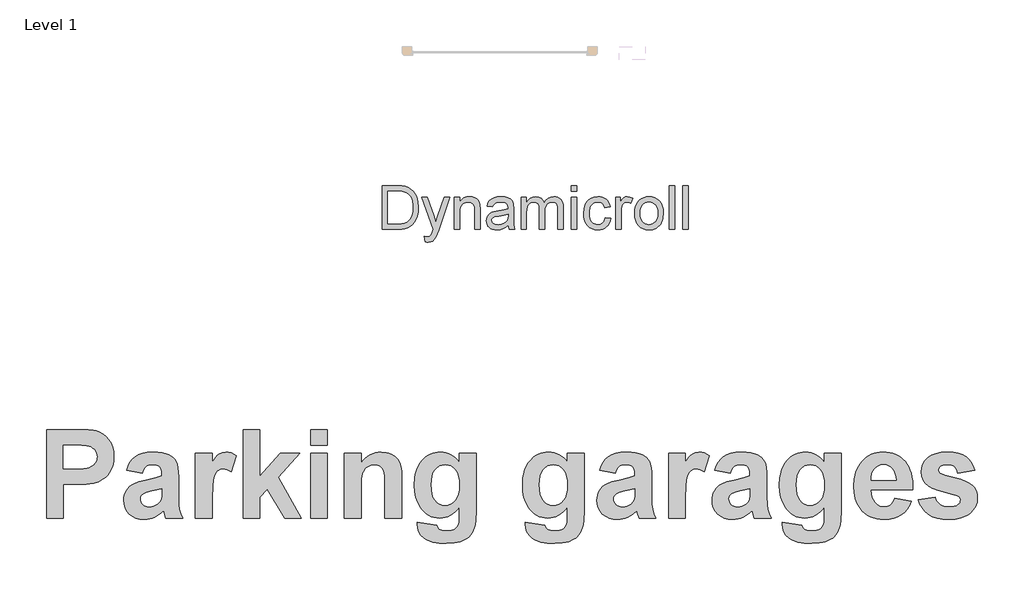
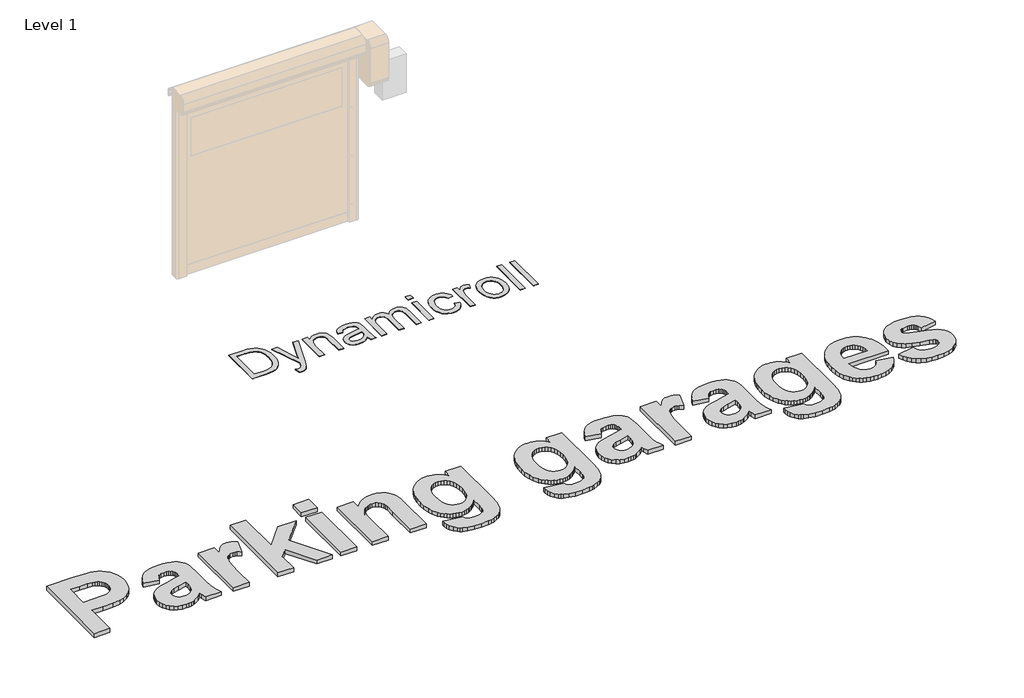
# One storey, part 18 of 20: 2 proxies.
"""IFC4 building model written with IfcOpenShell, lengths in millimetres."""

from ifc_helpers import new_model, si_unit, origin, origin_with_axes, place, context, project, spatial, polyline, outline, extrude, element, save

model = new_model("IFC4")

# Units and contexts
model_context = context("Model", 3, world=origin())
ifc_project = project(units=[si_unit("LENGTHUNIT", "METRE", prefix="MILLI")], contexts=[model_context])

# Site, building, storey
site = spatial("IfcSite", under=ifc_project)
building = spatial("IfcBuilding", under=site)
storey = spatial("IfcBuildingStorey", under=building, Name="Level 1", Elevation=0.0)

# Proxies
placement = place(None, origin())
element("IfcBuildingElementProxy", 1, Name="1000", ObjectType="1000", at=placement, inside=storey, context=model_context, shape_type="SweptSolid", body=[
    extrude(outline(polyline([(-782.7548717, 74991.5736553), (-782.7548717, 76011.8330553), (-454.0552287, 76011.8330553), (-299.6372478, 76008.0374474), (-246.8624832, 76003.2929375), (-210.3772023, 75996.6506237), (-168.5069028, 75981.9031056), (-130.1949857, 75960.4341985), (-95.441451, 75932.2439024), (-64.2462987, 75897.3322174), (-38.5073327, 75856.2842996), (-20.122357, 75809.6853052), (-9.0913716, 75757.5352344), (-5.4143765, 75699.834087), (-7.5731284, 75655.0063763), (-14.0493844, 75613.8951984), (-24.8431443, 75576.5005532), (-39.9544082, 75542.8224407), (-58.3947365, 75512.7106182), (-79.1756897, 75486.0148427), (-102.2972678, 75462.7351143), (-127.7594707, 75442.871433), (-181.4356922, 75412.6647203), (-235.9342954, 75394.6672129), (-327.3451854, 75383.8497304), (-452.283945, 75380.2439029), (-588.4197479, 75380.2439029), (-588.4197479, 74991.5736553), (-782.7548717, 74991.5736553)]), holes=[polyline([(-588.4197479, 75833.6925251), (-588.4197479, 75558.3844331), (-467.7194171, 75558.3844331), (-359.0068812, 75562.180041), (-320.8531144, 75566.9245508), (-293.5010151, 75573.5668646), (-254.3429937, 75593.0826152), (-238.3223654, 75606.0904797), (-224.673992, 75621.2650037), (-213.7695269, 75638.1791814), (-205.9806232, 75656.4060067), (-201.307281, 75675.9454798), (-199.7495003, 75696.7976007), (-201.9398823, 75722.0858382), (-208.5110285, 75745.065081), (-219.4629387, 75765.7353289), (-234.7956131, 75784.0965821), (-253.4652594, 75799.6902045), (-274.4280854, 75812.0575602), (-297.6840913, 75821.1986492), (-323.2332768, 75827.1134714), (-382.6345403, 75832.0477617), (-481.8896865, 75833.6925251), (-588.4197479, 75833.6925251)])]), origin_with_axes(), (0.0, 0.0, 1.0), 50.0),
    extrude(outline(polyline([(318.4774965, 75509.8006521), (140.3369664, 75542.1898394), (157.0771787, 75592.3551237), (178.9572766, 75635.5617934), (205.9772603, 75671.8098487), (238.1371296, 75701.0992896), (277.065833, 75723.6831565), (324.3923188, 75739.8144901), (380.1165871, 75749.4932902), (444.2386379, 75752.7195569), (502.3905137, 75750.7664003), (552.603243, 75744.9069306), (594.8768259, 75735.1411478), (629.2112622, 75721.4690519), (657.3303906, 75704.8000073), (680.9580497, 75686.0433783), (700.0942395, 75665.199165), (714.7389599, 75642.2673674), (725.5880725, 75613.2705046), (733.3374386, 75574.231096), (737.9870582, 75525.1491415), (739.5369315, 75466.0246412), (739.5369315, 75236.2638437), (742.0989668, 75150.9891866), (749.7850727, 75091.524663), (764.4930533, 75043.2571827), (788.1207124, 74991.5736553), (593.7855886, 74991.5736553), (575.5666707, 75053.3155436), (568.7345765, 75077.8604746), (518.442772, 75033.1039316), (464.7349205, 75001.062675), (436.5683469, 74989.8260942), (407.4845015, 74981.799965), (377.4833842, 74976.9842875), (346.5649949, 74975.3790617), (294.0828084, 74979.2774673), (247.467999, 74990.9726841), (206.7205668, 75010.4647121), (171.8405119, 75037.7535513), (143.8874413, 75070.9888428), (123.9209623, 75108.3202279), (111.9410749, 75149.7477065), (107.9477791, 75195.2712786), (109.7269703, 75225.9208123), (115.0645439, 75254.8623224), (123.9604999, 75282.095809), (136.4148382, 75307.621272), (152.0796283, 75330.8535553), (170.6069393, 75351.2075026), (191.9967712, 75368.6831139), (216.2491241, 75383.2803892), (278.9399144, 75407.8885804), (364.2778317, 75429.0807244), (474.7932814, 75454.0684763), (545.2018076, 75477.4114648), (545.2018076, 75497.9077474), (543.691472, 75525.2677543), (539.1604651, 75548.3893323), (531.6087869, 75567.2724815), (521.0364374, 75581.917202), (506.2889193, 75592.8770197), (486.2117351, 75600.705461), (460.8048848, 75605.4025258), (430.0683684, 75606.968214), (389.7716647, 75601.5911028), (373.3714756, 75594.8697139), (359.4700617, 75585.4597693), (347.4190067, 75572.6654077), (336.5698941, 75555.7907677), (318.4774965, 75509.8006521)]), holes=[polyline([(545.2018076, 75331.660122), (435.63526, 75304.711306), (373.6403312, 75289.2442038), (337.455536, 75273.9668821), (322.067509, 75260.9827401), (311.0760612, 75246.3222046), (304.4811925, 75229.9852757), (302.2829029, 75211.9719533), (304.0462791, 75194.1246887), (309.3364076, 75177.5268117), (318.1532884, 75162.1783223), (330.4969215, 75148.0792205), (345.5607403, 75136.2891135), (362.5381781, 75127.8676085), (381.4292349, 75122.8147055), (402.2339106, 75121.1304045), (426.3518357, 75123.0914686), (449.8687896, 75128.9746608), (472.7847722, 75138.7799812), (495.0997835, 75152.5074297), (522.3016401, 75178.9501647), (538.1166729, 75210.7067506), (543.430524, 75243.4122386), (545.2018076, 75296.4874889), (545.2018076, 75331.660122)])]), origin_with_axes(), (0.0, 0.0, 1.0), 50.0),
    extrude(outline(polyline([(1128.2071791, 74991.5736553), (933.8720553, 74991.5736553), (933.8720553, 75736.5249632), (1128.2071791, 75736.5249632), (1128.2071791, 75632.7783476), (1169.2630044, 75693.7927444), (1188.1303386, 75714.8346456), (1205.8906205, 75729.5663488), (1242.708017, 75746.9312548), (1284.3331835, 75752.7195569), (1314.935272, 75750.1575215), (1344.9996495, 75742.4714156), (1374.5263159, 75729.661239), (1403.5152711, 75711.7269917), (1346.8341933, 75526.7543673), (1300.0216961, 75550.4769166), (1277.9439102, 75556.407554), (1256.7517662, 75558.3844331), (1219.3966585, 75552.8491716), (1203.0676371, 75545.9300947), (1188.3043039, 75536.2433871), (1175.0671214, 75522.9508519), (1163.316552, 75505.2142926), (1144.2752524, 75456.4091012), (1137.2454703, 75419.6549648), (1132.2241974, 75367.0857956), (1128.2071791, 75214.5023585), (1128.2071791, 74991.5736553)])), origin_with_axes(), (0.0, 0.0, 1.0), 50.0),
    extrude(outline(polyline([(1484.4882394, 74991.5736553), (1484.4882394, 76011.8330553), (1678.8233632, 76011.8330553), (1678.8233632, 75474.121938), (1913.6449711, 75736.5249632), (2140.3692822, 75736.5249632), (1890.6182832, 75462.7351143), (2156.5638758, 74991.5736553), (1962.228752, 74991.5736553), (1765.6162635, 75325.3341088), (1678.8233632, 75230.1908711), (1678.8233632, 74991.5736553), (1484.4882394, 74991.5736553)])), origin_with_axes(), (0.0, 0.0, 1.0), 50.0),
    extrude(outline(polyline([(2261.8287346, 75833.6925251), (2261.8287346, 76011.8330553), (2456.1638584, 76011.8330553), (2456.1638584, 75833.6925251), (2261.8287346, 75833.6925251)])), origin_with_axes(), (0.0, 0.0, 1.0), 50.0),
    extrude(outline(polyline([(2261.8287346, 74991.5736553), (2261.8287346, 75736.5249632), (2456.1638584, 75736.5249632), (2456.1638584, 74991.5736553), (2261.8287346, 74991.5736553)])), origin_with_axes(), (0.0, 0.0, 1.0), 50.0),
    extrude(outline(polyline([(3314.4773218, 74991.5736553), (3120.142198, 74991.5736553), (3120.142198, 75374.4239708), (3117.1057117, 75474.628019), (3113.3101038, 75508.5987096), (3107.9962528, 75531.8151779), (3091.9914395, 75563.5085037), (3068.2688902, 75587.231053), (3037.9672873, 75602.0339238), (3002.225313, 75606.968214), (2978.0678503, 75605.2048379), (2955.1914053, 75599.9147094), (2933.5959779, 75591.0978285), (2913.2815682, 75578.7541954), (2895.1575405, 75563.4926887), (2880.1332593, 75545.9221872), (2868.2087245, 75526.0426909), (2859.3839362, 75503.8541998), (2853.0183855, 75475.5690135), (2848.4715635, 75437.3994317), (2844.834106, 75331.4070814), (2844.834106, 74991.5736553), (2650.4989822, 74991.5736553), (2650.4989822, 75736.5249632), (2844.834106, 75736.5249632), (2844.834106, 75629.2357803), (2868.6713142, 75658.1772904), (2894.0030431, 75683.2599325), (2920.8292926, 75704.4837066), (2949.1500627, 75721.8486127), (2978.9653534, 75735.3546508), (3010.2751647, 75745.0018208), (3043.0794966, 75750.7901229), (3077.3783492, 75752.7195569), (3136.4633119, 75746.8363646), (3164.0130992, 75739.4823744), (3190.2344237, 75729.186788), (3235.149117, 75702.4277524), (3252.956844, 75686.6285345), (3267.6648245, 75669.2161834), (3289.9640209, 75630.3428326), (3304.2291805, 75586.5984517), (3311.9152865, 75530.3918249), (3314.4773218, 75454.1317364), (3314.4773218, 74991.5736553)])), origin_with_axes(), (0.0, 0.0, 1.0), 50.0),
    extrude(outline(polyline([(3492.617852, 74942.9898744), (3719.3421631, 74910.6006871), (3728.0088011, 74882.0071076), (3743.381013, 74864.0412303), (3758.3894792, 74856.0704538), (3777.0986631, 74850.3770419), (3825.6191839, 74845.8223125), (3859.3052039, 74847.2614804), (3888.4997546, 74851.5789844), (3913.2028359, 74858.7748244), (3933.4144479, 74868.8490003), (3954.5433318, 74889.0289822), (3969.8522836, 74918.6979839), (3976.304817, 74953.6175764), (3978.4556615, 75009.2864921), (3978.4556615, 75117.8408777), (3953.9067767, 75088.2469974), (3928.3378223, 75062.5989679), (3901.7487983, 75040.896789), (3874.1397047, 75023.1404609), (3845.5105415, 75009.3299835), (3815.8613086, 74999.4653567), (3785.1920061, 74993.5465807), (3753.5026341, 74991.5736553), (3718.5079201, 74993.5544882), (3685.3872875, 74999.4969868), (3654.1407363, 75009.4011511), (3624.7682666, 75023.2669812), (3597.2698782, 75041.094477), (3571.6455712, 75062.8836385), (3547.8953456, 75088.6344657), (3526.0192014, 75118.3469587), (3497.2358416, 75171.5170992), (3476.6762988, 75230.8234724), (3464.3405732, 75296.2660784), (3460.2286647, 75367.8449171), (3465.6136834, 75455.9425577), (3472.3449567, 75495.8458625), (3481.7687394, 75532.9854903), (3493.8850315, 75567.3614411), (3508.6938329, 75598.9737149), (3526.1951436, 75627.8223117), (3546.3889637, 75653.9072315), (3592.1023162, 75697.1376239), (3616.9338947, 75714.1209923), (3643.0820746, 75728.0164755), (3670.5468561, 75738.8240736), (3699.328239, 75746.5437865), (3729.4262234, 75751.1756143), (3760.8408093, 75752.7195569), (3793.1351064, 75750.8889668), (3823.9744205, 75745.3971967), (3853.3587515, 75736.2442464), (3881.2880996, 75723.430116), (3907.7624646, 75706.9548055), (3932.7818466, 75686.8183149), (3956.3462455, 75663.0206442), (3978.4556615, 75635.5617934), (3978.4556615, 75736.5249632), (4172.7907853, 75736.5249632), (4172.7907853, 75074.8239883), (4167.5085643, 74960.9241216), (4160.9057881, 74916.2861914), (4151.6619014, 74879.8562632), (4140.0378522, 74849.2778971), (4126.2945887, 74822.1946534), (4110.4321107, 74798.6065319), (4092.4504183, 74778.5135326), (4071.8118005, 74761.156534), (4047.9785459, 74745.7764146), (3990.728127, 74720.946813), (3956.796974, 74711.8136315), (3918.6432072, 74705.2899305), (3829.6678323, 74700.0709696), (3744.3773601, 74703.9614677), (3672.4664057, 74715.6329619), (3613.934969, 74735.0854524), (3589.6865699, 74747.7295711), (3568.7830502, 74762.318939), (3535.1286603, 74795.530508), (3511.0898104, 74832.9172456), (3496.6665004, 74874.479152), (3491.8587304, 74920.216227), (3492.617852, 74942.9898744)]), holes=[polyline([(3654.5637885, 75375.1830924), (3657.3709568, 75317.5847427), (3665.7924618, 75268.2734703), (3679.8283035, 75227.249275), (3699.4784818, 75194.512157), (3723.2563837, 75169.492775), (3749.6753961, 75151.6217879), (3778.735519, 75140.8991956), (3810.4367524, 75137.3249982), (3844.3679054, 75140.9940858), (3875.5630577, 75152.0013487), (3904.0222093, 75170.3467868), (3929.7453603, 75196.0304001), (3951.056117, 75228.9098535), (3966.2780862, 75268.8428114), (3975.4112676, 75315.8292741), (3978.4556615, 75369.8692414), (3975.5377879, 75426.2102959), (3966.7841672, 75474.7861694), (3952.1947994, 75515.5968617), (3931.7696845, 75548.6423728), (3906.8847303, 75574.1599283), (3878.9158446, 75592.3867537), (3847.8630276, 75603.3228489), (3813.7262792, 75606.968214), (3780.5858778, 75603.3940166), (3750.4977778, 75592.6714243), (3723.4619791, 75574.8004372), (3699.4784818, 75549.7810552), (3679.8283035, 75517.423498), (3665.7924618, 75477.5379851), (3657.3709568, 75430.1245166), (3654.5637885, 75375.1830924)])]), origin_with_axes(), (0.0, 0.0, 1.0), 50.0),
    extrude(outline(polyline([(4739.601563, 74942.9898744), (4966.3258741, 74910.6006871), (4974.9925121, 74882.0071076), (4990.3647241, 74864.0412303), (5005.3731903, 74856.0704538), (5024.0823741, 74850.3770419), (5072.602895, 74845.8223125), (5106.288915, 74847.2614804), (5135.4834656, 74851.5789844), (5160.1865469, 74858.7748244), (5180.3981589, 74868.8490003), (5201.5270428, 74889.0289822), (5216.8359947, 74918.6979839), (5223.2885281, 74953.6175764), (5225.4393725, 75009.2864921), (5225.4393725, 75117.8408777), (5200.8904878, 75088.2469974), (5175.3215334, 75062.5989679), (5148.7325094, 75040.896789), (5121.1234158, 75023.1404609), (5092.4942525, 75009.3299835), (5062.8450197, 74999.4653567), (5032.1757172, 74993.5465807), (5000.4863451, 74991.5736553), (4965.4916311, 74993.5544882), (4932.3709986, 74999.4969868), (4901.1244474, 75009.4011511), (4871.7519776, 75023.2669812), (4844.2535892, 75041.094477), (4818.6292822, 75062.8836385), (4794.8790566, 75088.6344657), (4773.0029124, 75118.3469587), (4744.2195526, 75171.5170992), (4723.6600099, 75230.8234724), (4711.3242843, 75296.2660784), (4707.2123757, 75367.8449171), (4712.5973944, 75455.9425577), (4719.3286678, 75495.8458625), (4728.7524505, 75532.9854903), (4740.8687425, 75567.3614411), (4755.6775439, 75598.9737149), (4773.1788547, 75627.8223117), (4793.3726748, 75653.9072315), (4839.0860272, 75697.1376239), (4863.9176057, 75714.1209923), (4890.0657857, 75728.0164755), (4917.5305671, 75738.8240736), (4946.31195, 75746.5437865), (4976.4099345, 75751.1756143), (5007.8245204, 75752.7195569), (5040.1188175, 75750.8889668), (5070.9581315, 75745.3971967), (5100.3424626, 75736.2442464), (5128.2718106, 75723.430116), (5154.7461756, 75706.9548055), (5179.7655576, 75686.8183149), (5203.3299566, 75663.0206442), (5225.4393725, 75635.5617934), (5225.4393725, 75736.5249632), (5419.7744963, 75736.5249632), (5419.7744963, 75074.8239883), (5414.4922754, 74960.9241216), (5407.8894991, 74916.2861914), (5398.6456124, 74879.8562632), (5387.0215633, 74849.2778971), (5373.2782997, 74822.1946534), (5357.4158218, 74798.6065319), (5339.4341294, 74778.5135326), (5318.7955115, 74761.156534), (5294.962257, 74745.7764146), (5237.711838, 74720.946813), (5203.780685, 74711.8136315), (5165.6269182, 74705.2899305), (5076.6515434, 74700.0709696), (4991.3610711, 74703.9614677), (4919.4501167, 74715.6329619), (4860.9186801, 74735.0854524), (4836.670281, 74747.7295711), (4815.7667613, 74762.318939), (4782.1123714, 74795.530508), (4758.0735214, 74832.9172456), (4743.6502114, 74874.479152), (4738.8424415, 74920.216227), (4739.601563, 74942.9898744)]), holes=[polyline([(4901.5474995, 75375.1830924), (4904.3546679, 75317.5847427), (4912.7761729, 75268.2734703), (4926.8120145, 75227.249275), (4946.4621929, 75194.512157), (4970.2400948, 75169.492775), (4996.6591072, 75151.6217879), (5025.71923, 75140.8991956), (5057.4204634, 75137.3249982), (5091.3516164, 75140.9940858), (5122.5467687, 75152.0013487), (5151.0059204, 75170.3467868), (5176.7290713, 75196.0304001), (5198.0398281, 75228.9098535), (5213.2617972, 75268.8428114), (5222.3949787, 75315.8292741), (5225.4393725, 75369.8692414), (5222.521499, 75426.2102959), (5213.7678783, 75474.7861694), (5199.1785105, 75515.5968617), (5178.7533955, 75548.6423728), (5153.8684413, 75574.1599283), (5125.8995557, 75592.3867537), (5094.8467387, 75603.3228489), (5060.7099902, 75606.968214), (5027.5695889, 75603.3940166), (4997.4814889, 75592.6714243), (4970.4456902, 75574.8004372), (4946.4621929, 75549.7810552), (4926.8120145, 75517.423498), (4912.7761729, 75477.5379851), (4904.3546679, 75430.1245166), (4901.5474995, 75375.1830924)])]), origin_with_axes(), (0.0, 0.0, 1.0), 50.0),
    extrude(outline(polyline([(5776.0555566, 75509.8006521), (5597.9150265, 75542.1898394), (5614.6552388, 75592.3551237), (5636.5353367, 75635.5617934), (5663.5553204, 75671.8098487), (5695.7151897, 75701.0992896), (5734.6438931, 75723.6831565), (5781.9703789, 75739.8144901), (5837.6946472, 75749.4932902), (5901.8166979, 75752.7195569), (5959.9685738, 75750.7664003), (6010.1813031, 75744.9069306), (6052.454886, 75735.1411478), (6086.7893223, 75721.4690519), (6114.9084507, 75704.8000073), (6138.5361098, 75686.0433783), (6157.6722996, 75665.199165), (6172.31702, 75642.2673674), (6183.1661326, 75613.2705046), (6190.9154987, 75574.231096), (6195.5651183, 75525.1491415), (6197.1149915, 75466.0246412), (6197.1149915, 75236.2638437), (6199.6770269, 75150.9891866), (6207.3631328, 75091.524663), (6222.0711134, 75043.2571827), (6245.6987725, 74991.5736553), (6051.3636487, 74991.5736553), (6033.1447308, 75053.3155436), (6026.3126366, 75077.8604746), (5976.0208321, 75033.1039316), (5922.3129805, 75001.062675), (5894.146407, 74989.8260942), (5865.0625616, 74981.799965), (5835.0614442, 74976.9842875), (5804.143055, 74975.3790617), (5751.6608684, 74979.2774673), (5705.0460591, 74990.9726841), (5664.2986269, 75010.4647121), (5629.4185719, 75037.7535513), (5601.4655014, 75070.9888428), (5581.4990224, 75108.3202279), (5569.519135, 75149.7477065), (5565.5258392, 75195.2712786), (5567.3050304, 75225.9208123), (5572.642604, 75254.8623224), (5581.53856, 75282.095809), (5593.9928983, 75307.621272), (5609.6576884, 75330.8535553), (5628.1849994, 75351.2075026), (5649.5748313, 75368.6831139), (5673.8271842, 75383.2803892), (5736.5179745, 75407.8885804), (5821.8558918, 75429.0807244), (5932.3713414, 75454.0684763), (6002.7798677, 75477.4114648), (6002.7798677, 75497.9077474), (6001.2695321, 75525.2677543), (5996.7385252, 75548.3893323), (5989.186847, 75567.2724815), (5978.6144975, 75581.917202), (5963.8669794, 75592.8770197), (5943.7897952, 75600.705461), (5918.3829449, 75605.4025258), (5887.6464285, 75606.968214), (5847.3497248, 75601.5911028), (5830.9495357, 75594.8697139), (5817.0481218, 75585.4597693), (5804.9970668, 75572.6654077), (5794.1479542, 75555.7907677), (5776.0555566, 75509.8006521)]), holes=[polyline([(6002.7798677, 75331.660122), (5893.2133201, 75304.711306), (5831.2183913, 75289.2442038), (5795.0335961, 75273.9668821), (5779.6455691, 75260.9827401), (5768.6541213, 75246.3222046), (5762.0592526, 75229.9852757), (5759.860963, 75211.9719533), (5761.6243391, 75194.1246887), (5766.9144676, 75177.5268117), (5775.7313485, 75162.1783223), (5788.0749816, 75148.0792205), (5803.1388004, 75136.2891135), (5820.1162382, 75127.8676085), (5839.0072949, 75122.8147055), (5859.8119707, 75121.1304045), (5883.9298958, 75123.0914686), (5907.4468496, 75128.9746608), (5930.3628323, 75138.7799812), (5952.6778436, 75152.5074297), (5979.8797002, 75178.9501647), (5995.694733, 75210.7067506), (6001.0085841, 75243.4122386), (6002.7798677, 75296.4874889), (6002.7798677, 75331.660122)])]), origin_with_axes(), (0.0, 0.0, 1.0), 50.0),
    extrude(outline(polyline([(6585.7852391, 74991.5736553), (6391.4501153, 74991.5736553), (6391.4501153, 75736.5249632), (6585.7852391, 75736.5249632), (6585.7852391, 75632.7783476), (6626.8410644, 75693.7927444), (6645.7083987, 75714.8346456), (6663.4686806, 75729.5663488), (6700.2860771, 75746.9312548), (6741.9112435, 75752.7195569), (6772.5133321, 75750.1575215), (6802.5777096, 75742.4714156), (6832.104376, 75729.661239), (6861.0933312, 75711.7269917), (6804.4122534, 75526.7543673), (6757.5997561, 75550.4769166), (6735.5219703, 75556.407554), (6714.3298262, 75558.3844331), (6676.9747186, 75552.8491716), (6660.6456972, 75545.9300947), (6645.882364, 75536.2433871), (6632.6451815, 75522.9508519), (6620.8946121, 75505.2142926), (6601.8533125, 75456.4091012), (6594.8235304, 75419.6549648), (6589.8022575, 75367.0857956), (6585.7852391, 75214.5023585), (6585.7852391, 74991.5736553)])), origin_with_axes(), (0.0, 0.0, 1.0), 50.0),
    extrude(outline(polyline([(7104.0122359, 75509.8006521), (6925.8717058, 75542.1898394), (6942.6119181, 75592.3551237), (6964.492016, 75635.5617934), (6991.5119997, 75671.8098487), (7023.671869, 75701.0992896), (7062.6005724, 75723.6831565), (7109.9270582, 75739.8144901), (7165.6513265, 75749.4932902), (7229.7733773, 75752.7195569), (7287.9252531, 75750.7664003), (7338.1379824, 75744.9069306), (7380.4115653, 75735.1411478), (7414.7460016, 75721.4690519), (7442.86513, 75704.8000073), (7466.4927891, 75686.0433783), (7485.6289789, 75665.199165), (7500.2736993, 75642.2673674), (7511.1228119, 75613.2705046), (7518.872178, 75574.231096), (7523.5217976, 75525.1491415), (7525.0716708, 75466.0246412), (7525.0716708, 75236.2638437), (7527.6337062, 75150.9891866), (7535.3198121, 75091.524663), (7550.0277927, 75043.2571827), (7573.6554518, 74991.5736553), (7379.320328, 74991.5736553), (7361.1014101, 75053.3155436), (7354.2693159, 75077.8604746), (7303.9775114, 75033.1039316), (7250.2696598, 75001.062675), (7222.1030863, 74989.8260942), (7193.0192409, 74981.799965), (7163.0181236, 74976.9842875), (7132.0997343, 74975.3790617), (7079.6175478, 74979.2774673), (7033.0027384, 74990.9726841), (6992.2553062, 75010.4647121), (6957.3752513, 75037.7535513), (6929.4221807, 75070.9888428), (6909.4557017, 75108.3202279), (6897.4758143, 75149.7477065), (6893.4825185, 75195.2712786), (6895.2617097, 75225.9208123), (6900.5992833, 75254.8623224), (6909.4952393, 75282.095809), (6921.9495776, 75307.621272), (6937.6143677, 75330.8535553), (6956.1416787, 75351.2075026), (6977.5315106, 75368.6831139), (7001.7838635, 75383.2803892), (7064.4746538, 75407.8885804), (7149.8125711, 75429.0807244), (7260.3280207, 75454.0684763), (7330.736547, 75477.4114648), (7330.736547, 75497.9077474), (7329.2262114, 75525.2677543), (7324.6952045, 75548.3893323), (7317.1435263, 75567.2724815), (7306.5711768, 75581.917202), (7291.8236587, 75592.8770197), (7271.7464745, 75600.705461), (7246.3396242, 75605.4025258), (7215.6031078, 75606.968214), (7175.3064041, 75601.5911028), (7158.906215, 75594.8697139), (7145.0048011, 75585.4597693), (7132.9537461, 75572.6654077), (7122.1046335, 75555.7907677), (7104.0122359, 75509.8006521)]), holes=[polyline([(7330.736547, 75331.660122), (7221.1699994, 75304.711306), (7159.1750706, 75289.2442038), (7122.9902754, 75273.9668821), (7107.6022484, 75260.9827401), (7096.6108006, 75246.3222046), (7090.0159319, 75229.9852757), (7087.8176423, 75211.9719533), (7089.5810185, 75194.1246887), (7094.871147, 75177.5268117), (7103.6880278, 75162.1783223), (7116.0316609, 75148.0792205), (7131.0954797, 75136.2891135), (7148.0729175, 75127.8676085), (7166.9639742, 75122.8147055), (7187.76865, 75121.1304045), (7211.8865751, 75123.0914686), (7235.403529, 75128.9746608), (7258.3195116, 75138.7799812), (7280.6345229, 75152.5074297), (7307.8363795, 75178.9501647), (7323.6514123, 75210.7067506), (7328.9652634, 75243.4122386), (7330.736547, 75296.4874889), (7330.736547, 75331.660122)])]), origin_with_axes(), (0.0, 0.0, 1.0), 50.0),
    extrude(outline(polyline([(7703.212201, 74942.9898744), (7929.9365121, 74910.6006871), (7938.6031501, 74882.0071076), (7953.975362, 74864.0412303), (7968.9838282, 74856.0704538), (7987.6930121, 74850.3770419), (8036.2135329, 74845.8223125), (8069.8995529, 74847.2614804), (8099.0941036, 74851.5789844), (8123.7971849, 74858.7748244), (8144.0087969, 74868.8490003), (8165.1376808, 74889.0289822), (8180.4466326, 74918.6979839), (8186.899166, 74953.6175764), (8189.0500105, 75009.2864921), (8189.0500105, 75117.8408777), (8164.5011257, 75088.2469974), (8138.9321714, 75062.5989679), (8112.3431474, 75040.896789), (8084.7340537, 75023.1404609), (8056.1048905, 75009.3299835), (8026.4556577, 74999.4653567), (7995.7863552, 74993.5465807), (7964.0969831, 74991.5736553), (7929.1022691, 74993.5544882), (7895.9816365, 74999.4969868), (7864.7350854, 75009.4011511), (7835.3626156, 75023.2669812), (7807.8642272, 75041.094477), (7782.2399202, 75062.8836385), (7758.4896946, 75088.6344657), (7736.6135504, 75118.3469587), (7707.8301906, 75171.5170992), (7687.2706479, 75230.8234724), (7674.9349222, 75296.2660784), (7670.8230137, 75367.8449171), (7676.2080324, 75455.9425577), (7682.9393057, 75495.8458625), (7692.3630885, 75532.9854903), (7704.4793805, 75567.3614411), (7719.2881819, 75598.9737149), (7736.7894926, 75627.8223117), (7756.9833127, 75653.9072315), (7802.6966652, 75697.1376239), (7827.5282437, 75714.1209923), (7853.6764236, 75728.0164755), (7881.1412051, 75738.8240736), (7909.922588, 75746.5437865), (7940.0205724, 75751.1756143), (7971.4351583, 75752.7195569), (8003.7294554, 75750.8889668), (8034.5687695, 75745.3971967), (8063.9531006, 75736.2442464), (8091.8824486, 75723.430116), (8118.3568136, 75706.9548055), (8143.3761956, 75686.8183149), (8166.9405946, 75663.0206442), (8189.0500105, 75635.5617934), (8189.0500105, 75736.5249632), (8383.3851343, 75736.5249632), (8383.3851343, 75074.8239883), (8378.1029133, 74960.9241216), (8371.5001371, 74916.2861914), (8362.2562504, 74879.8562632), (8350.6322012, 74849.2778971), (8336.8889377, 74822.1946534), (8321.0264597, 74798.6065319), (8303.0447674, 74778.5135326), (8282.4061495, 74761.156534), (8258.572895, 74745.7764146), (8201.322476, 74720.946813), (8167.391323, 74711.8136315), (8129.2375562, 74705.2899305), (8040.2621813, 74700.0709696), (7954.9717091, 74703.9614677), (7883.0607547, 74715.6329619), (7824.5293181, 74735.0854524), (7800.2809189, 74747.7295711), (7779.3773993, 74762.318939), (7745.7230093, 74795.530508), (7721.6841594, 74832.9172456), (7707.2608494, 74874.479152), (7702.4530794, 74920.216227), (7703.212201, 74942.9898744)]), holes=[polyline([(7865.1581375, 75375.1830924), (7867.9653058, 75317.5847427), (7876.3868108, 75268.2734703), (7890.4226525, 75227.249275), (7910.0728308, 75194.512157), (7933.8507327, 75169.492775), (7960.2697451, 75151.6217879), (7989.329868, 75140.8991956), (8021.0311014, 75137.3249982), (8054.9622544, 75140.9940858), (8086.1574067, 75152.0013487), (8114.6165583, 75170.3467868), (8140.3397093, 75196.0304001), (8161.6504661, 75228.9098535), (8176.8724352, 75268.8428114), (8186.0056167, 75315.8292741), (8189.0500105, 75369.8692414), (8186.1321369, 75426.2102959), (8177.3785162, 75474.7861694), (8162.7891484, 75515.5968617), (8142.3640335, 75548.6423728), (8117.4790793, 75574.1599283), (8089.5101937, 75592.3867537), (8058.4573766, 75603.3228489), (8024.3206282, 75606.968214), (7991.1802269, 75603.3940166), (7961.0921268, 75592.6714243), (7934.0563282, 75574.8004372), (7910.0728308, 75549.7810552), (7890.4226525, 75517.423498), (7876.3868108, 75477.5379851), (7867.9653058, 75430.1245166), (7865.1581375, 75375.1830924)])]), origin_with_axes(), (0.0, 0.0, 1.0), 50.0),
    extrude(outline(polyline([(8998.779693, 75218.2979664), (9193.1148168, 75185.9087791), (9172.1124532, 75137.491056), (9145.7962385, 75095.2253807), (9114.1661728, 75059.1117531), (9077.222256, 75029.1501734), (9035.1384536, 75005.625312), (8988.0887308, 74988.8218396), (8936.0730877, 74978.7397561), (8879.0915243, 74975.3790617), (8833.5560909, 74977.3598945), (8791.0808664, 74983.3023931), (8751.6658508, 74993.2065575), (8715.311044, 75007.0723875), (8682.0164461, 75024.8998833), (8651.782057, 75046.6890448), (8624.6078768, 75072.4398721), (8600.4939054, 75102.1523651), (8569.2750306, 75156.2239624), (8546.9758342, 75216.9695037), (8533.5963164, 75284.3889887), (8529.1364772, 75358.4824177), (8535.0512994, 75445.8446592), (8542.4448273, 75485.7776172), (8552.7957663, 75523.2118), (8566.1041165, 75558.1472076), (8582.3698778, 75590.58384), (8601.5930502, 75620.5216972), (8623.7736338, 75647.9607792), (8648.2157671, 75672.5136177), (8674.2235886, 75693.7927444), (8701.7970984, 75711.7981593), (8730.9362965, 75726.5298624), (8761.6411828, 75737.9878538), (8793.9117573, 75746.1721333), (8827.7480201, 75751.082701), (8863.1499712, 75752.7195569), (8902.6915071, 75751.0392096), (8940.0901061, 75745.9981679), (8975.3457681, 75737.5964317), (9008.4584931, 75725.834001), (9039.4282812, 75710.7108758), (9068.2551324, 75692.2270562), (9094.9390466, 75670.382542), (9119.4800238, 75645.1773334), (9141.4194281, 75616.5007251), (9160.2986236, 75584.2420118), (9176.1176102, 75548.4011936), (9188.876388, 75508.9782704), (9198.5749569, 75465.9732423), (9205.2133169, 75419.3861092), (9208.7914681, 75369.2168712), (9209.3094105, 75315.4655283), (8723.471601, 75315.4655283), (8727.0932435, 75271.9741879), (8735.9338468, 75233.6069182), (8749.9934111, 75200.3637191), (8769.2719361, 75172.2445907), (8792.5042194, 75149.8821343), (8818.4250583, 75133.9089511), (8847.0344527, 75124.3250411), (8878.3324027, 75121.1304045), (8919.1351875, 75126.8870765), (8936.9270995, 75134.0829164), (8952.9793578, 75144.1570924), (8967.2287024, 75157.4259049), (8979.6118732, 75174.2056548), (8998.779693, 75218.2979664)]), holes=[polyline([(9014.9742867, 75428.8276839), (9011.5107945, 75469.8597866), (9003.1446421, 75505.6571135), (8989.8758295, 75536.2196645), (8971.7043567, 75561.5474396), (8949.9745016, 75581.4190284), (8926.0305418, 75595.6130204), (8899.8724775, 75604.1294156), (8871.5003085, 75606.968214), (8841.3568559, 75603.9791728), (8813.9335889, 75595.0120492), (8789.2305076, 75580.0668431), (8767.2476119, 75559.1435546), (8749.3449947, 75532.9696753), (8736.6297083, 75502.525737), (8729.1017527, 75467.8117399), (8726.7611278, 75428.8276839), (9014.9742867, 75428.8276839)])]), origin_with_axes(), (0.0, 0.0, 1.0), 50.0),
    extrude(outline(polyline([(9274.0877851, 75202.1033728), (9468.4229089, 75234.4925601), (9476.0852923, 75208.3344957), (9486.9264973, 75185.5292183), (9500.9465239, 75166.0767279), (9518.1453722, 75149.9770245), (9538.7918976, 75137.3566282), (9563.1549557, 75128.3420595), (9591.2345465, 75122.9333183), (9623.0306701, 75121.1304045), (9657.8079274, 75122.8542431), (9687.9988251, 75128.0257588), (9713.6033633, 75136.6449517), (9734.621542, 75148.7118218), (9745.692065, 75159.1497435), (9753.5995814, 75171.2324286), (9758.3440913, 75184.9598771), (9759.9255946, 75200.3320891), (9756.5728076, 75220.4488109), (9746.5144467, 75236.7699248), (9723.551019, 75250.1178125), (9683.0012747, 75262.3270179), (9578.6378729, 75287.7259607), (9495.3084647, 75312.0494812), (9433.0130503, 75335.2975795), (9391.7516295, 75357.4702556), (9354.443967, 75390.5078592), (9327.7956367, 75429.397025), (9311.8066384, 75474.137753), (9306.4769724, 75524.7300431), (9311.0475169, 75571.0206443), (9324.7591503, 75613.4840076), (9347.6118728, 75652.1201328), (9379.6056843, 75686.9290202), (9421.2150358, 75715.71238), (9472.9143782, 75736.2719227), (9534.7037116, 75748.6076483), (9606.5830359, 75752.7195569), (9675.0146831, 75749.3984), (9734.0522008, 75739.4349293), (9783.695589, 75722.8291448), (9823.9448476, 75699.5810465), (9856.7294107, 75669.8171546), (9883.9787123, 75633.6639895), (9905.6927524, 75591.1215511), (9921.8715311, 75542.1898394), (9727.5364073, 75509.8006521), (9713.2396176, 75551.3625585), (9702.7700658, 75568.0157881), (9690.0864094, 75581.917202), (9674.8407178, 75592.8770197), (9656.68506, 75600.705461), (9635.6194363, 75605.4025258), (9611.6438465, 75606.968214), (9556.2912314, 75601.654363), (9535.4944632, 75595.0120492), (9519.2840545, 75585.7128098), (9505.4300858, 75568.2530136), (9500.8120962, 75546.2384878), (9505.4300858, 75527.1971883), (9519.2840545, 75511.0658547), (9539.3296087, 75500.4539677), (9574.6682996, 75487.8493865), (9691.2250918, 75456.6621417), (9759.2376406, 75438.047848), (9816.1322214, 75417.3776001), (9861.908834, 75394.6513978), (9896.5674785, 75369.8692414), (9921.8082709, 75341.1016966), (9939.8374084, 75307.1784511), (9950.6548909, 75268.0995049), (9954.2607184, 75223.864858), (9949.03385, 75174.6721983), (9933.3532449, 75129.069551), (9907.2189031, 75087.0569162), (9870.6308246, 75048.6342939), (9848.4680329, 75031.4650988), (9823.7946048, 75016.5851298), (9766.9158391, 74993.6928697), (9699.9945275, 74979.9575137), (9623.0306701, 74975.3790617), (9552.5193461, 74979.1904846), (9489.7732032, 74990.6247533), (9434.7922415, 75009.6818679), (9387.5764609, 75036.3618284), (9347.9835261, 75069.5892124), (9315.8711019, 75108.2885978), (9291.2391882, 75152.4599846), (9274.0877851, 75202.1033728)])), origin_with_axes(), (0.0, 0.0, 1.0), 50.0),
])
element("IfcBuildingElementProxy", 2, Name="500mm", ObjectType="500mm", at=placement, inside=storey, context=model_context, shape_type="SweptSolid", body=[
    extrude(outline(polyline([(3089.0858568, 78322.105087), (3089.0858568, 78824.3866377), (3262.3582766, 78824.3866377), (3314.1376674, 78822.5778846), (3351.9988561, 78817.1516251), (3392.0366799, 78803.2027661), (3425.8205098, 78781.2218169), (3444.4368716, 78763.2569128), (3460.5547015, 78742.9620894), (3474.1739995, 78720.3373467), (3485.2947657, 78695.3826847), (3500.102016, 78639.4033078), (3505.0377661, 78575.9436636), (3501.6961713, 78522.0336229), (3491.6713869, 78474.592174), (3476.4042841, 78434.2017966), (3457.335734, 78401.4449706), (3435.3854416, 78375.585932), (3411.473112, 78355.8889168), (3384.0199181, 78341.280936), (3351.4470331, 78330.6890002), (3313.6931433, 78324.2510653), (3270.6969351, 78322.105087), (3089.0858568, 78322.105087)]), holes=[polyline([(3151.8710507, 78384.8902808), (3262.9714132, 78384.8902808), (3308.9260058, 78387.1588864), (3343.7828248, 78393.9647033), (3370.0863875, 78404.9091927), (3390.3812109, 78419.5938157), (3412.1935475, 78446.7710981), (3428.5796247, 78481.9498139), (3438.8343353, 78525.2832472), (3442.2525722, 78576.9246823), (3440.5779427, 78613.3756566), (3435.5540542, 78645.3507334), (3427.1809067, 78672.8499125), (3415.4585002, 78695.8731941), (3401.3371966, 78714.9417441), (3385.7673575, 78730.5767289), (3368.7489832, 78742.7781484), (3350.2820734, 78751.5460027), (3314.1683242, 78759.0875836), (3261.2546306, 78761.6014439), (3151.8710507, 78761.6014439), (3151.8710507, 78384.8902808)])]), origin_with_axes(), (0.0, 0.0, 1.0), 5.0),
    extrude(outline(polyline([(3583.5192584, 78180.8384008), (3575.6711091, 78241.2936753), (3607.5542154, 78235.7754454), (3624.323503, 78237.5075565), (3637.352657, 78242.7038897), (3647.5000687, 78250.996563), (3655.6241294, 78262.0176944), (3672.7919559, 78308.2481985), (3677.6970491, 78323.4539876), (3544.2785122, 78690.9681008), (3610.4972713, 78690.9681008), (3681.2532418, 78486.1804568), (3705.9013354, 78404.2653992), (3730.5494291, 78476.6155249), (3803.2674368, 78690.9681008), (3868.9956866, 78690.9681008), (3740.6048703, 78313.2759191), (3707.2502361, 78231.3608615), (3690.1743801, 78205.210583), (3670.8299186, 78187.0923947), (3648.35846, 78176.5157874), (3621.9016132, 78172.9902516), (3603.7221113, 78174.9522889), (3583.5192584, 78180.8384008)])), origin_with_axes(), (0.0, 0.0, 1.0), 5.0),
    extrude(outline(polyline([(3920.9896753, 78322.105087), (3920.9896753, 78690.9681008), (3983.7748691, 78690.9681008), (3983.7748691, 78639.4646215), (4005.5872057, 78665.430959), (4031.7834695, 78683.9783429), (4062.3636603, 78695.1067732), (4097.3277783, 78698.81625), (4128.2758511, 78695.8272088), (4156.6180932, 78686.8600852), (4180.2545114, 78673.0338535), (4197.0851127, 78655.4674882), (4208.5047829, 78634.2069746), (4215.9084081, 78609.2982979), (4219.219346, 78548.5977686), (4219.219346, 78322.105087), (4156.4341522, 78322.105087), (4156.4341522, 78540.1364828), (4154.625399, 78572.6020688), (4149.1991396, 78595.686664), (4139.1896837, 78612.2260254), (4123.631341, 78625.05591), (4103.6890711, 78633.2872696), (4080.5278338, 78636.0310562), (4061.4631159, 78634.4905503), (4043.7549627, 78629.8690327), (4027.4033745, 78622.1665035), (4012.4083511, 78611.3829625), (3999.8812027, 78596.2921365), (3990.9332396, 78575.6677521), (3985.5644617, 78549.5098094), (3983.7748691, 78517.8183084), (3983.7748691, 78322.105087), (3920.9896753, 78322.105087)])), origin_with_axes(), (0.0, 0.0, 1.0), 5.0),
    extrude(outline(polyline([(4540.9934645, 78369.1939823), (4510.9957535, 78343.4728995), (4480.1089943, 78326.6422982), (4447.6280798, 78317.3532778), (4412.8479028, 78314.2569377), (4384.8927033, 78316.1193403), (4360.3787333, 78321.7065481), (4339.3059927, 78331.0185611), (4321.6744817, 78344.0553793), (4307.7524474, 78359.9892682), (4297.8081373, 78377.9924934), (4291.8415511, 78398.0650547), (4289.8526891, 78420.2069523), (4292.8570587, 78446.2346035), (4301.8701676, 78469.8710217), (4315.7730413, 78490.1045314), (4333.4467055, 78505.9234572), (4354.2167098, 78517.8796221), (4377.408604, 78526.5248489), (4431.7325119, 78535.9671535), (4495.9279201, 78545.8999674), (4540.6255825, 78557.5495639), (4540.9934645, 78571.5290797), (4536.670851, 78599.549425), (4523.7030107, 78617.8822111), (4510.6278715, 78625.8223308), (4494.7016468, 78631.4938449), (4454.2959409, 78636.0310562), (4416.8946048, 78633.0113581), (4390.7749831, 78623.952264), (4372.9633632, 78607.1983048), (4360.4860322, 78581.0940116), (4297.7008383, 78588.9421608), (4308.5993424, 78623.2778137), (4324.8627923, 78650.2558266), (4348.0087012, 78670.8878752), (4379.5545823, 78686.1856348), (4418.1362065, 78695.6585962), (4462.3893448, 78698.81625), (4504.83373, 78696.0264782), (4538.4796042, 78687.6571628), (4563.8481334, 78675.0725329), (4581.4604839, 78659.6368175), (4593.1407373, 78640.552939), (4600.712975, 78617.0238198), (4603.7786583, 78562.0867751), (4603.7786583, 78483.9731648), (4606.9669689, 78374.8961533), (4611.6881212, 78347.9334687), (4619.4749568, 78322.105087), (4556.6897629, 78322.105087), (4546.6343217, 78343.932752), (4540.9934645, 78369.1939823)]), holes=[polyline([(4540.9934645, 78494.76437), (4498.8096624, 78484.31039), (4439.7032885, 78475.5118789), (4385.6859488, 78465.3338104), (4371.6297909, 78458.3747093), (4361.2217962, 78448.7791206), (4354.7838613, 78437.2828083), (4352.6378829, 78424.6215363), (4357.31305, 78405.951525), (4371.338551, 78390.6537654), (4394.4078178, 78380.44504), (4426.214282, 78377.0421316), (4459.9367982, 78380.7975936), (4489.7352398, 78392.0639797), (4513.8928242, 78408.6646547), (4530.6927686, 78428.4229836), (4538.142379, 78448.7791206), (4540.6255825, 78476.9834069), (4540.9934645, 78494.76437)])]), origin_with_axes(), (0.0, 0.0, 1.0), 5.0),
    extrude(outline(polyline([(4690.1082999, 78322.105087), (4690.1082999, 78690.9681008), (4752.8934937, 78690.9681008), (4752.8934937, 78630.2675716), (4771.7781028, 78658.1499611), (4796.0583145, 78679.9929546), (4824.9063943, 78694.1104262), (4857.4946077, 78698.81625), (4892.4127404, 78694.0184557), (4920.4024288, 78679.6250726), (4941.3103889, 78656.5864626), (4954.9833364, 78625.8529876), (4977.8686622, 78657.7744149), (5003.9729554, 78680.5754344), (5033.2962161, 78694.2560461), (5065.8384443, 78698.81625), (5090.9732152, 78696.9193585), (5113.0346386, 78691.2286839), (5132.0227145, 78681.7442262), (5147.9374429, 78668.4659854), (5160.5182407, 78651.2406774), (5169.5045248, 78629.915018), (5174.8962953, 78604.4890072), (5176.6935521, 78574.962645), (5176.6935521, 78322.105087), (5113.9083583, 78322.105087), (5113.9083583, 78547.984632), (5112.4521587, 78579.3005868), (5108.08356, 78600.4078163), (5099.8981857, 78614.862513), (5086.991659, 78626.2208696), (5070.390984, 78633.5785095), (5051.1231645, 78636.0310562), (5033.330705, 78634.4598935), (5017.1094083, 78629.7464054), (5002.4592743, 78621.890592), (4989.3803029, 78610.8924532), (4978.6235867, 78596.4300922), (4970.9402179, 78578.1816124), (4966.3301967, 78556.1470138), (4964.7935229, 78530.3262962), (4964.7935229, 78322.105087), (4902.0083291, 78322.105087), (4902.0083291, 78554.9743899), (4898.3754944, 78590.4750024), (4887.4769903, 78615.7975464), (4879.0501933, 78624.6497069), (4868.3011413, 78630.9726787), (4839.8362719, 78636.0310562), (4815.6480307, 78632.6588045), (4793.3605132, 78622.5420497), (4774.9664134, 78605.9260462), (4762.4584256, 78583.0560489), (4755.2847267, 78551.3262268), (4752.8934937, 78508.1307492), (4752.8934937, 78322.105087), (4690.1082999, 78322.105087)])), origin_with_axes(), (0.0, 0.0, 1.0), 5.0),
    extrude(outline(polyline([(5270.8713429, 78761.6014439), (5270.8713429, 78824.3866377), (5333.6565368, 78824.3866377), (5333.6565368, 78761.6014439), (5270.8713429, 78761.6014439)])), origin_with_axes(), (0.0, 0.0, 1.0), 5.0),
    extrude(outline(polyline([(5270.8713429, 78322.105087), (5270.8713429, 78690.9681008), (5333.6565368, 78690.9681008), (5333.6565368, 78322.105087), (5270.8713429, 78322.105087)])), origin_with_axes(), (0.0, 0.0, 1.0), 5.0),
    extrude(outline(polyline([(5663.2788044, 78455.5236239), (5726.0639983, 78447.6754746), (5719.2351887, 78418.0494777), (5708.5589467, 78391.8340535), (5694.0352721, 78369.0292019), (5675.6641649, 78349.6349229), (5654.2197103, 78334.1570544), (5630.4759932, 78323.101434), (5604.4330136, 78316.4680618), (5576.0907716, 78314.2569377), (5540.8775668, 78317.3417815), (5509.304861, 78326.596313), (5481.3726541, 78342.020532), (5457.0809461, 78363.6144387), (5437.4184199, 78390.97183), (5423.3737583, 78423.6865029), (5414.9469614, 78461.7584573), (5412.1380291, 78505.1876932), (5416.9358234, 78561.0597712), (5431.3292065, 78609.4822389), (5442.1817253, 78630.4323521), (5455.5481045, 78648.5850293), (5471.4283439, 78663.9402704), (5489.8224437, 78676.4980756), (5530.8259578, 78693.2367064), (5575.2323803, 78698.81625), (5603.0879451, 78696.900198), (5628.2840296, 78691.1520418), (5650.8206339, 78681.5717815), (5670.697758, 78668.1594171), (5687.5781766, 78651.2215169), (5701.1246647, 78631.0646492), (5711.3372222, 78607.6888141), (5718.215849, 78581.0940116), (5655.4306552, 78573.2458623), (5644.0416418, 78600.6377425), (5626.3066639, 78620.273444), (5603.2067403, 78632.0916531), (5575.7228896, 78636.0310562), (5554.389566, 78634.0920115), (5535.1485712, 78628.2748774), (5517.9999053, 78618.579654), (5502.9435682, 78605.0063412), (5490.6846671, 78587.2407066), (5481.9283092, 78564.9685174), (5476.6744945, 78538.1897739), (5474.9232229, 78506.9044759), (5476.6361734, 78475.147829), (5481.7750251, 78448.0586851), (5490.3397778, 78425.6370439), (5502.3304315, 78407.8829055), (5517.0878645, 78394.3900669), (5533.9529547, 78384.752325), (5552.9257022, 78378.9696799), (5574.0061069, 78377.0421316), (5606.5176783, 78381.8552543), (5633.1737945, 78396.2946226), (5643.9535034, 78407.2161194), (5652.5642413, 78420.7281185), (5663.2788044, 78455.5236239)])), origin_with_axes(), (0.0, 0.0, 1.0), 5.0),
    extrude(outline(polyline([(5781.0010429, 78322.105087), (5781.0010429, 78690.9681008), (5835.9380875, 78690.9681008), (5835.9380875, 78636.3989382), (5856.2329109, 78668.0367897), (5874.933579, 78686.6761442), (5893.6955607, 78695.7812236), (5914.1743251, 78698.81625), (5945.4442947, 78693.9724704), (5977.2047736, 78679.4411316), (5956.2354999, 78623.1551863), (5934.1625802, 78632.8120887), (5912.0896605, 78636.0310562), (5893.3430072, 78632.934716), (5876.589048, 78623.6456957), (5863.0540562, 78608.8691022), (5853.9643053, 78589.3100428), (5846.3307539, 78554.2386259), (5843.7862367, 78515.9788984), (5843.7862367, 78322.105087), (5781.0010429, 78322.105087)])), origin_with_axes(), (0.0, 0.0, 1.0), 5.0),
    extrude(outline(polyline([(6000.7492213, 78506.5365939), (6004.1444656, 78554.3076038), (6014.3301983, 78595.4720662), (6031.3064196, 78630.0299811), (6055.0731293, 78657.9813485), (6079.0007874, 78675.8466179), (6105.411649, 78688.6075246), (6134.305714, 78696.2640687), (6165.6829825, 78698.81625), (6200.3213716, 78695.7084136), (6231.6411586, 78686.3849043), (6259.6423433, 78670.8457221), (6284.324926, 78649.090867), (6304.4702973, 78621.856103), (6318.8598483, 78589.8771942), (6327.4935788, 78553.1541404), (6330.371489, 78511.6869418), (6325.2824548, 78448.2579545), (6318.9211619, 78422.2226391), (6310.015352, 78399.9734426), (6298.6761559, 78380.7554405), (6285.0147047, 78363.8137082), (6269.0309984, 78349.1482457), (6250.7250371, 78336.7590531), (6209.9974345, 78319.8824666), (6165.6829825, 78314.2569377), (6130.5387557, 78317.3532778), (6098.9277288, 78326.6422982), (6070.8499019, 78342.1239989), (6046.3052751, 78363.7983797), (6026.3745016, 78391.2975589), (6012.1382348, 78424.2536543), (6003.5964747, 78462.6666659), (6000.7492213, 78506.5365939)]), holes=[polyline([(6063.5344152, 78506.6592212), (6065.3508325, 78476.2054898), (6070.8000846, 78449.8367814), (6079.8821713, 78427.5530959), (6092.5970928, 78409.3544335), (6108.063465, 78395.2178014), (6125.399904, 78385.120207), (6144.6064099, 78379.0616504), (6165.6829825, 78377.0421316), (6186.6522562, 78379.0731467), (6205.78212, 78385.1661923), (6223.0725738, 78395.3212682), (6238.5236176, 78409.5383745), (6251.238539, 78427.9171458), (6260.3206258, 78450.5572169), (6265.7698778, 78477.4585878), (6267.5862952, 78508.6212585), (6265.7583815, 78538.1092997), (6260.2746405, 78563.7882294), (6251.1350722, 78585.6580476), (6238.3396766, 78603.7187543), (6222.8311512, 78617.8553863), (6205.5521937, 78627.9529807), (6186.5028042, 78634.0115373), (6165.6829825, 78636.0310562), (6144.6064099, 78634.0192015), (6125.399904, 78627.9836375), (6108.063465, 78617.9243642), (6092.5970928, 78603.8413816), (6079.8821713, 78585.6963686), (6070.8000846, 78563.4510042), (6065.3508325, 78537.1052884), (6063.5344152, 78506.6592212)])]), origin_with_axes(), (0.0, 0.0, 1.0), 5.0),
    extrude(outline(polyline([(6401.0048321, 78322.105087), (6401.0048321, 78824.3866377), (6463.7900259, 78824.3866377), (6463.7900259, 78322.105087), (6401.0048321, 78322.105087)])), origin_with_axes(), (0.0, 0.0, 1.0), 5.0),
    extrude(outline(polyline([(6557.9678167, 78322.105087), (6557.9678167, 78824.3866377), (6620.7530105, 78824.3866377), (6620.7530105, 78322.105087), (6557.9678167, 78322.105087)])), origin_with_axes(), (0.0, 0.0, 1.0), 5.0),
])

save(model, "model.ifc")
